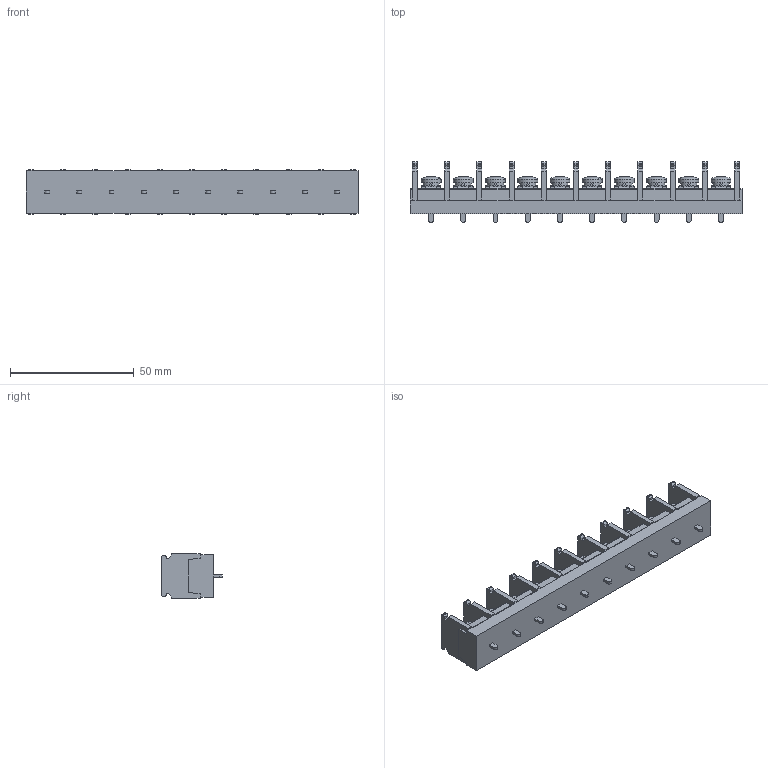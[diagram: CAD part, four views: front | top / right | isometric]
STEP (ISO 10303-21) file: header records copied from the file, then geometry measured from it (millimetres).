
FILE_DESCRIPTION(/* description */ ('Alibre Inc.'),/* implementation_level */ '2;1');
FILE_NAME(/* name */ 'export0',/* time_stamp */ '2016-08-02T19:16:22+09:00',/* author */ (''),/* organization */ (''),/* preprocessor_version */ 'ST-DEVELOPER v14',/* originating_system */ 'Alibre',/* authorisation */ '');
FILE_SCHEMA (('CONFIG_CONTROL_DESIGN'));
Length unit declared in the file: centimetre
Products named in the file (1): ID_1
Bounding box: 134 x 24.5 x 18 mm (x, y, z)
Volume: 27554.9 mm3; surface area: 14592.3 mm2
Topology: 1 solids, 27 shells, 1232 faces, 3274 edges, 2156 vertices
Faces by surface type: plane 886, cylinder 172, bspline 104, cone 50, torus 10, sphere 10
Full cylindrical faces by diameter (mm): 4 x10, 6.5 x10, 7.7 x10, 8 x10
Entity records: 36437 total; most frequent: CARTESIAN_POINT 7679, ORIENTED_EDGE 6388, DIRECTION 4772, EDGE_CURVE 3194, VECTOR 2212, LINE 2212, VERTEX_POINT 2126, AXIS2_PLACEMENT_3D 1693
